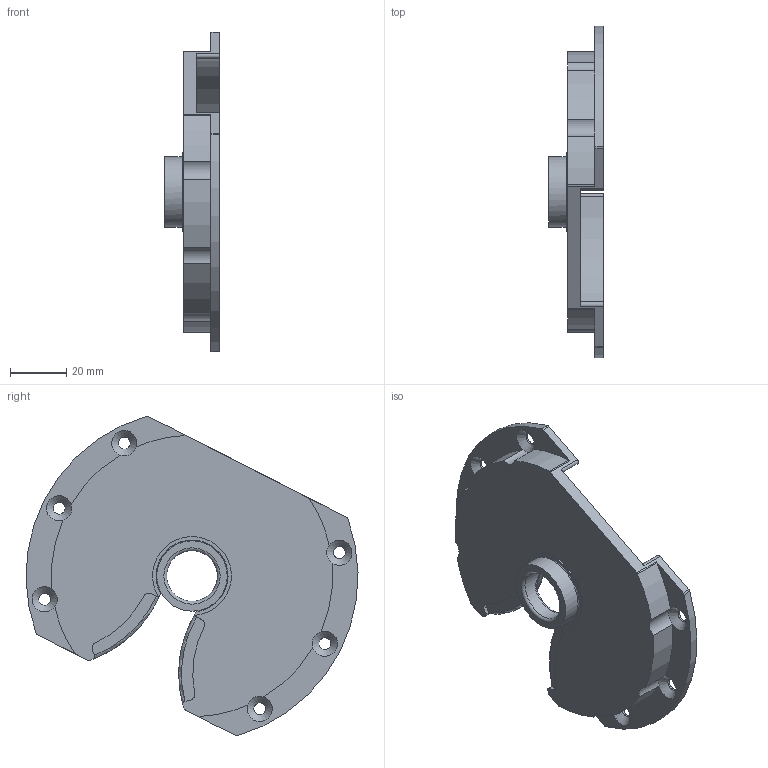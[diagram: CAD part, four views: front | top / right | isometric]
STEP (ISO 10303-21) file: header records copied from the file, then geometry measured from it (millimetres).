
FILE_DESCRIPTION(/* description */ ('STEP AP242 Edition 2','CAx-IF Rec.Pracs.---Representation and Presentation of Product Manufacturing Information (PMI)---4.0---2014-10-13','CAx-IF Rec.Pracs.---3D Tessellated Geometry---0.4---2014-09-14','2;1','CAx-IF Rec.Pracs.---User Defined Attributes---1.5---2016-08-15'),/* implementation_level */ '2;1');
FILE_NAME(/* name */ 'Assy_ForMFG - KD-D-403R',/* time_stamp */ '2026-05-15T19:56:37Z',/* author */ (''),/* organization */ (''),/* preprocessor_version */ 'ST-DEVELOPER v20',/* originating_system */ 'ONSHAPE BY PTC INC, 1.215',/* authorisation */ ' ');
FILE_SCHEMA (('AP242_MANAGED_MODEL_BASED_3D_ENGINEERING_MIM_LF { 1 0 10303 442 3 1 4 }'));
Length unit declared in the file: metre
Products named in the file (1): KD-D-403R
Bounding box: 19.45 x 117.97 x 113.57 mm (x, y, z)
Volume: 38928.6 mm3; surface area: 22905.7 mm2
Topology: 1 solids, 1 shells, 90 faces, 256 edges, 159 vertices
Faces by surface type: cylinder 49, plane 18, torus 11, cone 6, bspline 6
Full cylindrical faces by diameter (mm): 4.3 x6, 18 x1, 25 x1
Entity records: 2990 total; most frequent: CARTESIAN_POINT 681, DIRECTION 514, ORIENTED_EDGE 462, EDGE_CURVE 231, AXIS2_PLACEMENT_3D 218, VERTEX_POINT 151, CIRCLE 133, EDGE_LOOP 112
